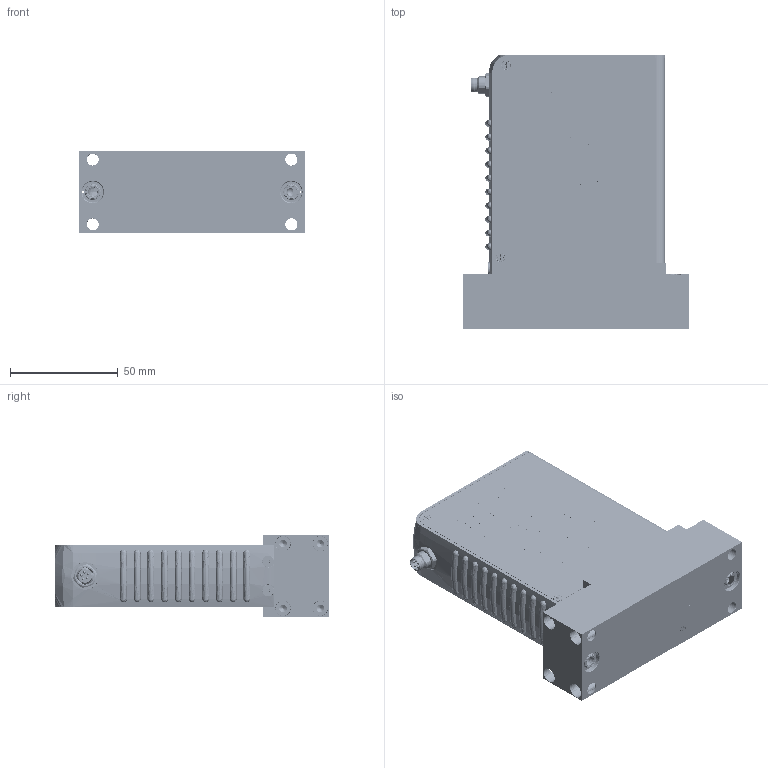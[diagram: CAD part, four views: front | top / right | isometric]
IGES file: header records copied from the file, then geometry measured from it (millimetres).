
Start section: SolidWorks IGES file using analytic representation for surfaces
Global section: file name: G:\Engineering\CAD MODELS FOR SALES\CAD MODEL STORAGE\GF\GF125\CUSTOMER FILES\IGES\GF100-GF120-GF125-BX-E0.IGS; native system: SolidWorks 2020; preprocessor: SolidWorks 2020; author: CFehr; date: 230414.111246; units: inch
Bounding box: 104.95 x 127 x 37.6 mm (x, y, z)
Surface area: 91708.6 mm2 (no closed solid volume)
Topology: 0 solids, 0 shells, 7164 faces, 63968 edges, 63840 vertices
Faces by surface type: bspline 5930, revolution 1234
